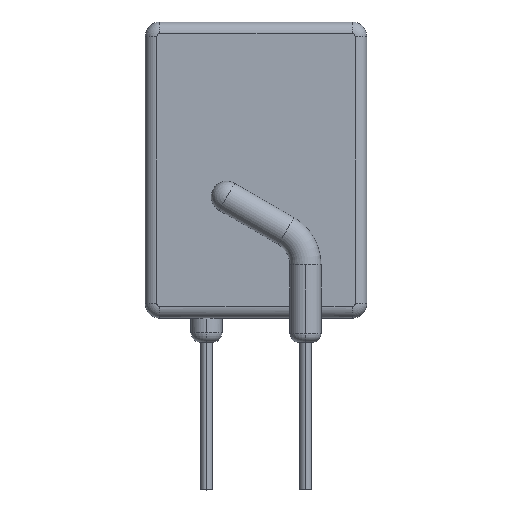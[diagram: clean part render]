
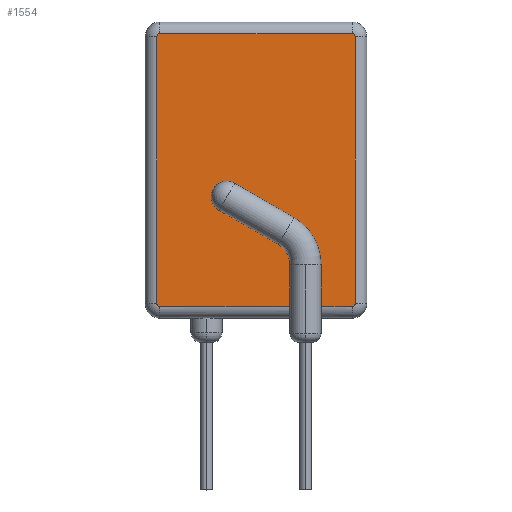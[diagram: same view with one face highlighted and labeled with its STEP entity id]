
A CAD part, top view. The second image highlights one B-rep face of the part: STEP entity #1554.
In plain terms, the highlighted planar face has unit normal (0, 0, 1).
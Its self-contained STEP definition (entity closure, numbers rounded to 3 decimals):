
#1 = DIRECTION ( 'NONE',  ( 0., 0., 1. ) ) ;
#9 = VECTOR ( 'NONE', #1568, 1000. ) ;
#10 = DIRECTION ( 'NONE',  ( 1., 0., 0. ) ) ;
#45 = CARTESIAN_POINT ( 'NONE',  ( 1.757, 3.5, 0.595 ) ) ;
#46 = ORIENTED_EDGE ( 'NONE', *, *, #667, .T. ) ;
#58 = AXIS2_PLACEMENT_3D ( 'NONE', #1351, #468, #331 ) ;
#89 = ORIENTED_EDGE ( 'NONE', *, *, #1067, .T. ) ;
#98 = VECTOR ( 'NONE', #123, 1000. ) ;
#107 = CARTESIAN_POINT ( 'NONE',  ( 4.95, 15.905, 0.595 ) ) ;
#109 = VERTEX_POINT ( 'NONE', #107 ) ;
#111 = ORIENTED_EDGE ( 'NONE', *, *, #363, .T. ) ;
#114 = CARTESIAN_POINT ( 'NONE',  ( 4.95, 1.845, 0.595 ) ) ;
#115 = LINE ( 'NONE', #548, #941 ) ;
#123 = DIRECTION ( 'NONE',  ( -0.866, 0.5, 0. ) ) ;
#144 = ORIENTED_EDGE ( 'NONE', *, *, #231, .T. ) ;
#155 = CARTESIAN_POINT ( 'NONE',  ( 1.757, 4., 0.595 ) ) ;
#159 = DIRECTION ( 'NONE',  ( 1., 0., 0. ) ) ;
#161 = CARTESIAN_POINT ( 'NONE',  ( -5.105, 15.75, 0.595 ) ) ;
#171 = DIRECTION ( 'NONE',  ( -1., 0., 0. ) ) ;
#231 = EDGE_CURVE ( 'NONE', #1650, #471, #914, .T. ) ;
#233 = VECTOR ( 'NONE', #1335, 1000. ) ;
#235 = VERTEX_POINT ( 'NONE', #1595 ) ;
#236 = VERTEX_POINT ( 'NONE', #1410 ) ;
#246 = CIRCLE ( 'NONE', #1423, 0.155 ) ;
#283 = AXIS2_PLACEMENT_3D ( 'NONE', #557, #1321, #1449 ) ;
#285 = DIRECTION ( 'NONE',  ( -1., 0., 0. ) ) ;
#296 = VECTOR ( 'NONE', #1621, 1000. ) ;
#309 = CARTESIAN_POINT ( 'NONE',  ( 0.55, 4., 0.595 ) ) ;
#326 = EDGE_CURVE ( 'NONE', #1357, #603, #662, .T. ) ;
#331 = DIRECTION ( 'NONE',  ( -1., 0., 0. ) ) ;
#351 = ORIENTED_EDGE ( 'NONE', *, *, #1116, .T. ) ;
#352 = CARTESIAN_POINT ( 'NONE',  ( 4.95, 2., 0.595 ) ) ;
#363 = EDGE_CURVE ( 'NONE', #512, #1200, #929, .T. ) ;
#389 = CARTESIAN_POINT ( 'NONE',  ( 4.95, 1.845, 0.595 ) ) ;
#408 = CIRCLE ( 'NONE', #641, 2.793 ) ;
#413 = EDGE_CURVE ( 'NONE', #922, #236, #1370, .T. ) ;
#420 = ORIENTED_EDGE ( 'NONE', *, *, #326, .T. ) ;
#427 = PLANE ( 'NONE',  #1324 ) ;
#440 = DIRECTION ( 'NONE',  ( 0., 0., 1. ) ) ;
#448 = ORIENTED_EDGE ( 'NONE', *, *, #1228, .T. ) ;
#461 = VECTOR ( 'NONE', #1070, 1000. ) ;
#468 = DIRECTION ( 'NONE',  ( 0., 0., 1. ) ) ;
#470 = LINE ( 'NONE', #483, #1417 ) ;
#471 = VERTEX_POINT ( 'NONE', #1494 ) ;
#481 = LINE ( 'NONE', #801, #98 ) ;
#483 = CARTESIAN_POINT ( 'NONE',  ( 3.343, 3.5, 0.595 ) ) ;
#487 = CARTESIAN_POINT ( 'NONE',  ( -4.95, 15.75, 0.595 ) ) ;
#512 = VERTEX_POINT ( 'NONE', #884 ) ;
#543 = EDGE_CURVE ( 'NONE', #918, #765, #470, .T. ) ;
#548 = CARTESIAN_POINT ( 'NONE',  ( 1.153, 5.045, 0.595 ) ) ;
#557 = CARTESIAN_POINT ( 'NONE',  ( 0.55, 4., 0.595 ) ) ;
#564 = CARTESIAN_POINT ( 'NONE',  ( -1.507, 7.497, 0.595 ) ) ;
#567 = CARTESIAN_POINT ( 'NONE',  ( -5.105, 15.75, 0.595 ) ) ;
#603 = VERTEX_POINT ( 'NONE', #155 ) ;
#604 = ORIENTED_EDGE ( 'NONE', *, *, #1563, .T. ) ;
#610 = EDGE_LOOP ( 'NONE', ( #1540, #768, #1243, #144, #647, #448, #89, #1277, #840, #351, #420, #46, #604, #111, #839, #1126 ) ) ;
#611 = CARTESIAN_POINT ( 'NONE',  ( 1.757, 1.845, 0.595 ) ) ;
#616 = DIRECTION ( 'NONE',  ( 0., 1., 0. ) ) ;
#621 = CARTESIAN_POINT ( 'NONE',  ( -5.105, 2., 0.595 ) ) ;
#637 = EDGE_CURVE ( 'NONE', #765, #862, #408, .T. ) ;
#641 = AXIS2_PLACEMENT_3D ( 'NONE', #309, #440, #159 ) ;
#647 = ORIENTED_EDGE ( 'NONE', *, *, #1054, .T. ) ;
#654 = LINE ( 'NONE', #1474, #1586 ) ;
#662 = LINE ( 'NONE', #45, #233 ) ;
#667 = EDGE_CURVE ( 'NONE', #603, #235, #1123, .T. ) ;
#702 = DIRECTION ( 'NONE',  ( -1., 0., 0. ) ) ;
#761 = CARTESIAN_POINT ( 'NONE',  ( 4.95, 15.75, 0.595 ) ) ;
#765 = VERTEX_POINT ( 'NONE', #1490 ) ;
#768 = ORIENTED_EDGE ( 'NONE', *, *, #1297, .T. ) ;
#774 = FACE_OUTER_BOUND ( 'NONE', #610, .T. ) ;
#793 = VECTOR ( 'NONE', #10, 1000. ) ;
#801 = CARTESIAN_POINT ( 'NONE',  ( 1.947, 6.419, 0.595 ) ) ;
#825 = AXIS2_PLACEMENT_3D ( 'NONE', #761, #1, #1148 ) ;
#838 = CARTESIAN_POINT ( 'NONE',  ( -1.111, 8.184, 0.595 ) ) ;
#839 = ORIENTED_EDGE ( 'NONE', *, *, #1446, .F. ) ;
#840 = ORIENTED_EDGE ( 'NONE', *, *, #413, .T. ) ;
#862 = VERTEX_POINT ( 'NONE', #1367 ) ;
#884 = CARTESIAN_POINT ( 'NONE',  ( -1.904, 6.81, 0.595 ) ) ;
#914 = LINE ( 'NONE', #1565, #9 ) ;
#918 = VERTEX_POINT ( 'NONE', #1381 ) ;
#922 = VERTEX_POINT ( 'NONE', #621 ) ;
#929 = CIRCLE ( 'NONE', #1555, 0.793 ) ;
#941 = VECTOR ( 'NONE', #1451, 1000. ) ;
#948 = CARTESIAN_POINT ( 'NONE',  ( 5.105, 2., 0.595 ) ) ;
#1015 = DIRECTION ( 'NONE',  ( -1., 0., 0. ) ) ;
#1023 = VERTEX_POINT ( 'NONE', #114 ) ;
#1053 = CIRCLE ( 'NONE', #825, 0.155 ) ;
#1054 = EDGE_CURVE ( 'NONE', #471, #109, #1053, .T. ) ;
#1064 = DIRECTION ( 'NONE',  ( 0., 0., -1. ) ) ;
#1067 = EDGE_CURVE ( 'NONE', #1497, #1539, #1092, .T. ) ;
#1068 = LINE ( 'NONE', #1107, #296 ) ;
#1070 = DIRECTION ( 'NONE',  ( 0., -1., 0. ) ) ;
#1092 = CIRCLE ( 'NONE', #1514, 0.155 ) ;
#1107 = CARTESIAN_POINT ( 'NONE',  ( 4.95, 1.845, 0.595 ) ) ;
#1116 = EDGE_CURVE ( 'NONE', #236, #1357, #1549, .T. ) ;
#1123 = CIRCLE ( 'NONE', #283, 1.207 ) ;
#1126 = ORIENTED_EDGE ( 'NONE', *, *, #637, .F. ) ;
#1148 = DIRECTION ( 'NONE',  ( -1., 0., 0. ) ) ;
#1183 = LINE ( 'NONE', #161, #461 ) ;
#1200 = VERTEX_POINT ( 'NONE', #838 ) ;
#1228 = EDGE_CURVE ( 'NONE', #109, #1497, #654, .T. ) ;
#1243 = ORIENTED_EDGE ( 'NONE', *, *, #1302, .T. ) ;
#1277 = ORIENTED_EDGE ( 'NONE', *, *, #1521, .T. ) ;
#1297 = EDGE_CURVE ( 'NONE', #918, #1023, #1068, .T. ) ;
#1302 = EDGE_CURVE ( 'NONE', #1023, #1650, #246, .T. ) ;
#1321 = DIRECTION ( 'NONE',  ( 0., 0., 1. ) ) ;
#1323 = CARTESIAN_POINT ( 'NONE',  ( 4.95, 15.75, 0.595 ) ) ;
#1324 = AXIS2_PLACEMENT_3D ( 'NONE', #1323, #1064, #285 ) ;
#1335 = DIRECTION ( 'NONE',  ( 0., 1., 0. ) ) ;
#1351 = CARTESIAN_POINT ( 'NONE',  ( -4.95, 2., 0.595 ) ) ;
#1357 = VERTEX_POINT ( 'NONE', #611 ) ;
#1367 = CARTESIAN_POINT ( 'NONE',  ( 1.947, 6.419, 0.595 ) ) ;
#1370 = CIRCLE ( 'NONE', #58, 0.155 ) ;
#1381 = CARTESIAN_POINT ( 'NONE',  ( 3.343, 1.845, 0.595 ) ) ;
#1410 = CARTESIAN_POINT ( 'NONE',  ( -4.95, 1.845, 0.595 ) ) ;
#1417 = VECTOR ( 'NONE', #616, 1000. ) ;
#1423 = AXIS2_PLACEMENT_3D ( 'NONE', #352, #1492, #1658 ) ;
#1446 = EDGE_CURVE ( 'NONE', #862, #1200, #481, .T. ) ;
#1449 = DIRECTION ( 'NONE',  ( 1., 0., 0. ) ) ;
#1451 = DIRECTION ( 'NONE',  ( -0.866, 0.5, 0. ) ) ;
#1474 = CARTESIAN_POINT ( 'NONE',  ( 4.95, 15.905, 0.595 ) ) ;
#1490 = CARTESIAN_POINT ( 'NONE',  ( 3.343, 4., 0.595 ) ) ;
#1492 = DIRECTION ( 'NONE',  ( 0., 0., 1. ) ) ;
#1494 = CARTESIAN_POINT ( 'NONE',  ( 5.105, 15.75, 0.595 ) ) ;
#1497 = VERTEX_POINT ( 'NONE', #1559 ) ;
#1514 = AXIS2_PLACEMENT_3D ( 'NONE', #487, #1518, #1015 ) ;
#1518 = DIRECTION ( 'NONE',  ( 0., 0., 1. ) ) ;
#1521 = EDGE_CURVE ( 'NONE', #1539, #922, #1183, .T. ) ;
#1539 = VERTEX_POINT ( 'NONE', #567 ) ;
#1540 = ORIENTED_EDGE ( 'NONE', *, *, #543, .F. ) ;
#1549 = LINE ( 'NONE', #389, #793 ) ;
#1554 = ADVANCED_FACE ( 'NONE', ( #774 ), #427, .F. ) ;
#1555 = AXIS2_PLACEMENT_3D ( 'NONE', #564, #1602, #171 ) ;
#1559 = CARTESIAN_POINT ( 'NONE',  ( -4.95, 15.905, 0.595 ) ) ;
#1563 = EDGE_CURVE ( 'NONE', #235, #512, #115, .T. ) ;
#1565 = CARTESIAN_POINT ( 'NONE',  ( 5.105, 15.75, 0.595 ) ) ;
#1568 = DIRECTION ( 'NONE',  ( 0., 1., 0. ) ) ;
#1586 = VECTOR ( 'NONE', #702, 1000. ) ;
#1595 = CARTESIAN_POINT ( 'NONE',  ( 1.153, 5.045, 0.595 ) ) ;
#1602 = DIRECTION ( 'NONE',  ( 0., 0., -1. ) ) ;
#1621 = DIRECTION ( 'NONE',  ( 1., 0., 0. ) ) ;
#1650 = VERTEX_POINT ( 'NONE', #948 ) ;
#1658 = DIRECTION ( 'NONE',  ( -1., 0., 0. ) ) ;
